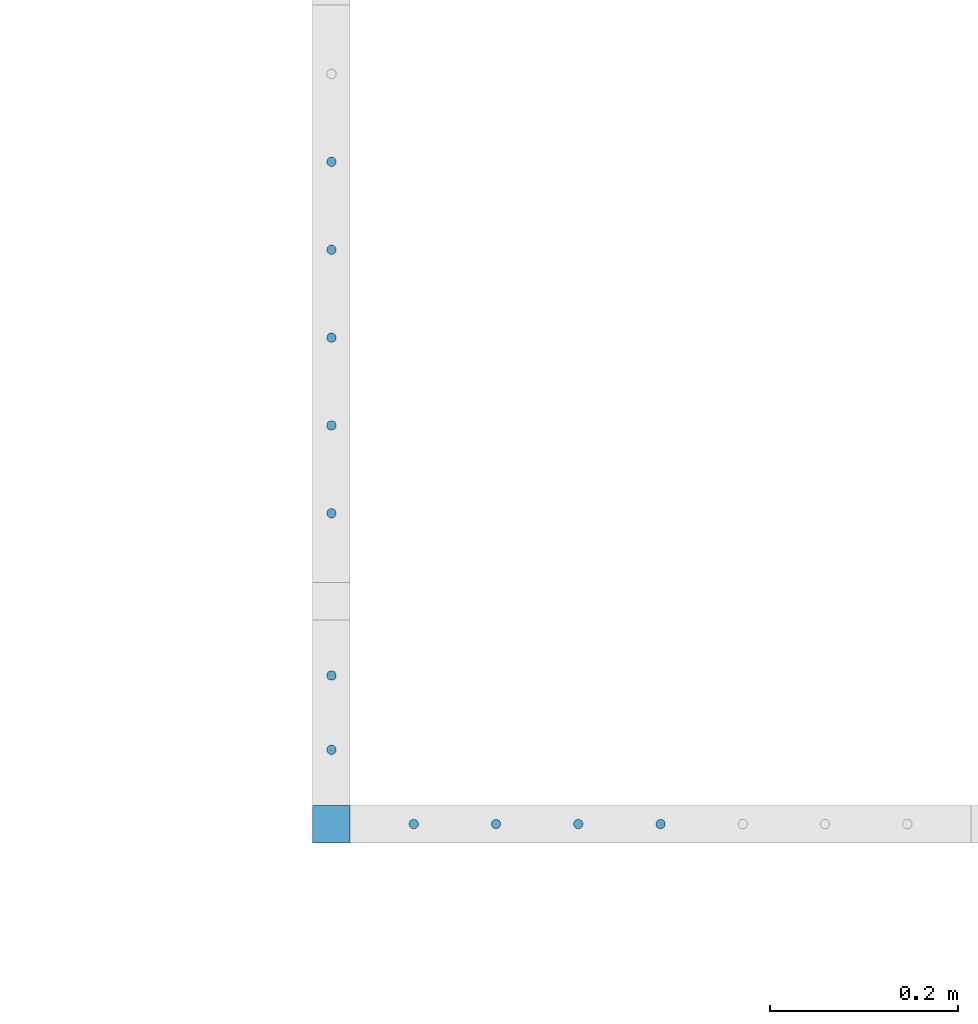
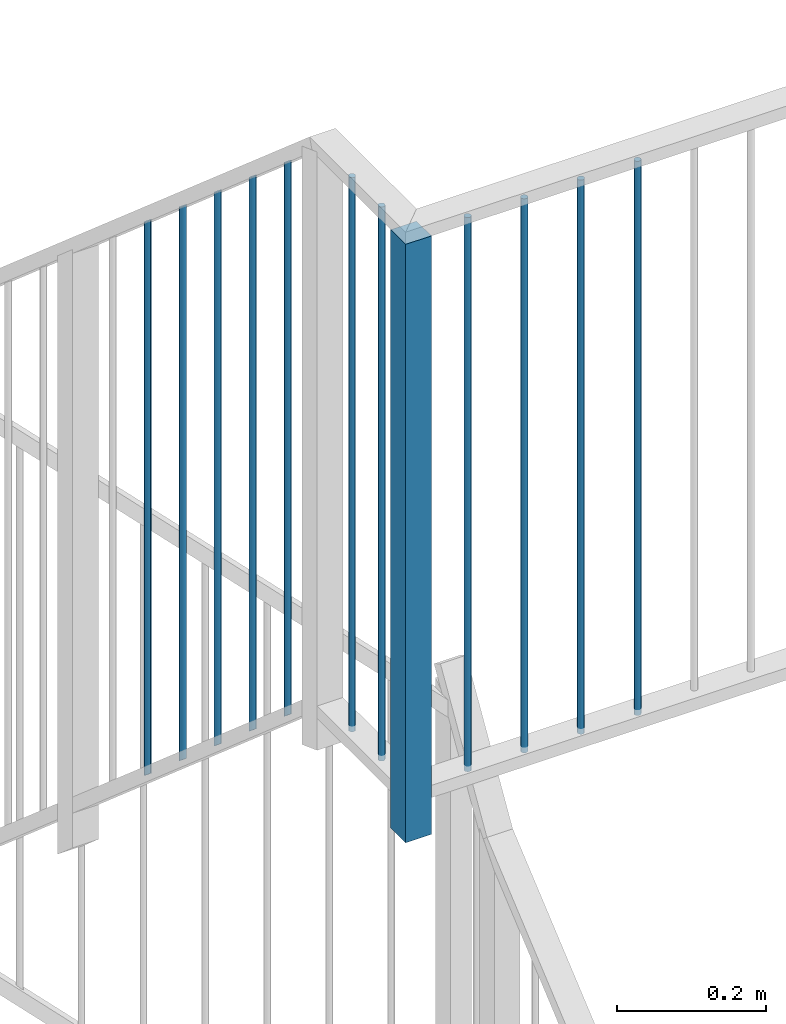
# One storey, part 6 of 135: 12 members, 1 element without a shape of its own.
"""IFC2X3 building model written with IfcOpenShell, lengths in millimetres."""

from ifc_helpers import new_model, entity, si_unit, converted_unit, derived_unit, money_unit, direction, frame, origin_with_axes, place, context, subcontext, project, spatial, faceted_brep, source, transform, mapped, material, type_object, type_shapes, element, aggregate, save


model = new_model("IFC2X3")

# Units and contexts
model_context = context("Model", 3, precision=0.01, world=origin_with_axes(), true_north=direction((0.0, 1.0)))
body_context = subcontext(model_context, "Body", "Model", "MODEL_VIEW")
ifc_project = project(units=[si_unit("LENGTHUNIT", "METRE", prefix="MILLI"), si_unit("AREAUNIT", "SQUARE_METRE"), si_unit("VOLUMEUNIT", "CUBIC_METRE"), converted_unit("PLANEANGLEUNIT", "DEGREE", entity("IfcPlaneAngleMeasure", 0.0174532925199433), si_unit("PLANEANGLEUNIT", "RADIAN"), dimensions=[0, 0, 0, 0, 0, 0, 0]), money_unit("EUR"), converted_unit("TIMEUNIT", "Year", entity("IfcTimeMeasure", 31557600.0), si_unit("TIMEUNIT", "SECOND"), dimensions=[0, 0, 1, 0, 0, 0, 0]), si_unit("MASSUNIT", "GRAM", prefix="KILO"), si_unit("THERMODYNAMICTEMPERATUREUNIT", "DEGREE_CELSIUS"), si_unit("LUMINOUSINTENSITYUNIT", "LUMEN"), si_unit("ENERGYUNIT", "JOULE", prefix="MEGA"), derived_unit("THERMALCONDUCTANCEUNIT", [(si_unit("POWERUNIT", "WATT"), 1), (si_unit("LENGTHUNIT", "METRE"), -1), (si_unit("THERMODYNAMICTEMPERATUREUNIT", "KELVIN"), -1)]), derived_unit("SPECIFICHEATCAPACITYUNIT", [(si_unit("ENERGYUNIT", "JOULE"), 1), (si_unit("MASSUNIT", "GRAM", prefix="KILO"), -1), (si_unit("THERMODYNAMICTEMPERATUREUNIT", "KELVIN"), -1)]), derived_unit("MASSDENSITYUNIT", [(si_unit("MASSUNIT", "GRAM", prefix="KILO"), 1), (si_unit("VOLUMEUNIT", "CUBIC_METRE"), -1)])], contexts=[model_context])

# Site, building, storey
site_placement = place(None, origin_with_axes())
site = spatial("IfcSite", under=ifc_project, at=site_placement, Name="Site", CompositionType="ELEMENT")
building_placement = place(site_placement, origin_with_axes())
building = spatial("IfcBuilding", under=site, at=building_placement, Name="Naam gebouw", CompositionType="ELEMENT")
storey_placement = place(building_placement, origin_with_axes())
storey = spatial("IfcBuildingStorey", under=building, at=storey_placement, Name="Begane grond N", CompositionType="ELEMENT", Elevation=0.0)

# Railing, members
railing_type = type_object("IfcRailingType", Name="Railing Type", PredefinedType="NOTDEFINED")
railing_placement = place(storey_placement, frame((799.9999999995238, 21575.82979156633, 4340.731848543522), z_axis=(0.0, 0.0, 1.0), x_axis=(1.0, 0.0, 0.0)))
railing = element("IfcRailing", 1, at=railing_placement, inside=storey, type_object=railing_type, Name="_Reling-x", PredefinedType="NOTDEFINED")
ifc_material = material(Name="Metaal - Staal C")
member_type_1 = type_object("IfcMemberType", Name="IfcMember", PredefinedType="MEMBER")
shared_shape_1 = source(origin_with_axes(), body_context, "Body", "Brep", [
    faceted_brep([(0.0, -5.0, 0.0), (0.8682408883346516, -4.92403876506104, 0.0), (0.868240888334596, -4.92403876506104, 907.5000000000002), (0.0, -5.0, 907.5000000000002), (-0.868240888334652, -4.92403876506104, 0.0), (-1.710100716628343, -4.698463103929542, 0.0), (-2.500000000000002, -4.330127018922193, 0.0), (-3.213938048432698, -3.830222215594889, 0.0), (-3.830222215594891, -3.213938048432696, 0.0), (-4.330127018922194, -2.5, 0.0), (-4.698463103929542, -1.710100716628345, 0.0), (-4.924038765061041, -0.86824088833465, 0.0), (-5.0, 0.0, 0.0), (-4.92403876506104, 0.8682408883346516, 0.0), (-4.698463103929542, 1.710100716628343, 0.0), (-4.330127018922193, 2.500000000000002, 0.0), (-3.83022221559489, 3.213938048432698, 0.0), (-3.213938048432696, 3.83022221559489, 0.0), (-2.5, 4.330127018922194, 0.0), (-1.710100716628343, 4.698463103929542, 0.0), (-0.8682408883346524, 4.92403876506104, 0.0), (0.0, 5.0, 0.0), (0.8682408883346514, 4.92403876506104, 0.0), (1.710100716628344, 4.698463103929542, 0.0), (2.5, 4.330127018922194, 0.0), (3.213938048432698, 3.83022221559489, 0.0), (3.83022221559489, 3.213938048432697, 0.0), (4.330127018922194, 2.499999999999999, 0.0), (4.698463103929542, 1.710100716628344, 0.0), (4.92403876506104, 0.8682408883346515, 0.0), (5.0, 0.0, 0.0), (4.92403876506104, -0.8682408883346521, 0.0), (4.698463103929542, -1.710100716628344, 0.0), (4.330127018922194, -2.5, 0.0), (3.83022221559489, -3.213938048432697, 0.0), (3.213938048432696, -3.83022221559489, 0.0), (2.5, -4.330127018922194, 0.0), (1.710100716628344, -4.698463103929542, 0.0), (1.710100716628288, -4.698463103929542, 907.5000000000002), (2.499999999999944, -4.330127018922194, 907.5000000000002), (3.213938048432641, -3.83022221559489, 907.5000000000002), (3.830222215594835, -3.213938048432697, 907.5000000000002), (4.330127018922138, -2.5, 907.5000000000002), (4.698463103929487, -1.710100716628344, 907.5000000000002), (4.924038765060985, -0.8682408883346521, 907.5000000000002), (4.999999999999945, 0.0, 907.5000000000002), (4.924038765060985, 0.8682408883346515, 907.5000000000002), (4.698463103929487, 1.710100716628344, 907.5000000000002), (4.330127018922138, 2.499999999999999, 907.5000000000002), (3.830222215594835, 3.213938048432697, 907.5000000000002), (3.213938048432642, 3.83022221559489, 907.5000000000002), (2.499999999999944, 4.330127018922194, 907.5000000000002), (1.710100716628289, 4.698463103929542, 907.5000000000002), (0.8682408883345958, 4.92403876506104, 907.5000000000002), (0.0, 5.0, 907.5000000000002), (-0.868240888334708, 4.92403876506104, 907.5000000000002), (-1.710100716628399, 4.698463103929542, 907.5000000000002), (-2.500000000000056, 4.330127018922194, 907.5000000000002), (-3.213938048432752, 3.83022221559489, 907.5000000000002), (-3.830222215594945, 3.213938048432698, 907.5000000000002), (-4.330127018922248, 2.500000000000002, 907.5000000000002), (-4.698463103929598, 1.710100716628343, 907.5000000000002), (-4.924038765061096, 0.8682408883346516, 907.5000000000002), (-5.000000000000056, 0.0, 907.5000000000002), (-4.924038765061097, -0.86824088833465, 907.5000000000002), (-4.698463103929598, -1.710100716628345, 907.5000000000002), (-4.330127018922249, -2.5, 907.5000000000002), (-3.830222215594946, -3.213938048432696, 907.5000000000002), (-3.213938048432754, -3.830222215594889, 907.5000000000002), (-2.500000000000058, -4.330127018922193, 907.5000000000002), (-1.710100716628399, -4.698463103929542, 907.5000000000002), (-0.8682408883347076, -4.92403876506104, 907.5000000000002)], [[[0, 1, 2, 3]], [[0, 4, 5, 6, 7, 8, 9, 10, 11, 12, 13, 14, 15, 16, 17, 18, 19, 20, 21, 22, 23, 24, 25, 26, 27, 28, 29, 30, 31, 32, 33, 34, 35, 36, 37, 1]], [[1, 37, 38, 2]], [[3, 2, 38, 39, 40, 41, 42, 43, 44, 45, 46, 47, 48, 49, 50, 51, 52, 53, 54, 55, 56, 57, 58, 59, 60, 61, 62, 63, 64, 65, 66, 67, 68, 69, 70, 71]], [[4, 0, 3, 71]], [[5, 4, 71, 70]], [[6, 5, 70, 69]], [[7, 6, 69, 68]], [[8, 7, 68, 67]], [[9, 8, 67, 66]], [[10, 9, 66, 65]], [[11, 10, 65, 64]], [[12, 11, 64, 63]], [[13, 12, 63, 62]], [[14, 13, 62, 61]], [[15, 14, 61, 60]], [[16, 15, 60, 59]], [[17, 16, 59, 58]], [[18, 17, 58, 57]], [[19, 18, 57, 56]], [[20, 19, 56, 55]], [[21, 20, 55, 54]], [[22, 21, 54, 53]], [[23, 22, 53, 52]], [[24, 23, 52, 51]], [[25, 24, 51, 50]], [[26, 25, 50, 49]], [[27, 26, 49, 48]], [[28, 27, 48, 47]], [[29, 28, 47, 46]], [[30, 29, 46, 45]], [[31, 30, 45, 44]], [[32, 31, 44, 43]], [[33, 32, 43, 42]], [[34, 33, 42, 41]], [[35, 34, 41, 40]], [[36, 35, 40, 39]], [[37, 36, 39, 38]]]),
])
member_1_placement = place(railing_placement, frame((-1084.999999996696, 58.41392893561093, 3391.96815145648), z_axis=(0.0, 0.0, 1.0), x_axis=(1.0, 0.0, 0.0)))
member_1 = element("IfcMember", 2, at=member_1_placement, type_object=member_type_1, material=ifc_material, Name="_Spijlen-x", ObjectType="MEMBER", context=body_context, shape_type="MappedRepresentation", body=[
    mapped(shared_shape_1, transform((0.0, 0.0, 0.0), x_axis=(-1.0, 0.0, 0.0), y_axis=(0.0, -1.0, 0.0), z_axis=(0.0, 0.0, 1.0))),
])
member_2_placement = place(railing_placement, frame((-1084.999999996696, -20.79303553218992, 3391.96815145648), z_axis=(0.0, 0.0, 1.0), x_axis=(1.0, 0.0, 0.0)))
member_2 = element("IfcMember", 3, at=member_2_placement, type_object=member_type_1, material=ifc_material, Name="_Spijlen-x", ObjectType="MEMBER", context=body_context, shape_type="MappedRepresentation", body=[
    mapped(shared_shape_1, transform((0.0, 0.0, 0.0), x_axis=(-1.0, 0.0, 0.0), y_axis=(0.0, -1.0, 0.0), z_axis=(0.0, 0.0, 1.0))),
])
member_3_placement = place(railing_placement, frame((-997.2916666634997, -99.99999999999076, 3391.96815145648), z_axis=(0.0, 0.0, 1.0), x_axis=(1.0, 0.0, 0.0)))
member_3 = element("IfcMember", 4, at=member_3_placement, type_object=member_type_1, material=ifc_material, Name="_Spijlen-x", ObjectType="MEMBER", context=body_context, shape_type="MappedRepresentation", body=[
    mapped(shared_shape_1, transform((0.0, 0.0, 0.0), x_axis=(0.0, -1.0, 0.0), y_axis=(1.0, 0.0, 0.0), z_axis=(0.0, 0.0, 1.0))),
])
member_4_placement = place(railing_placement, frame((-821.8749999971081, -99.99999999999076, 3391.96815145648), z_axis=(0.0, 0.0, 1.0), x_axis=(1.0, 0.0, 0.0)))
member_4 = element("IfcMember", 5, at=member_4_placement, type_object=member_type_1, material=ifc_material, Name="_Spijlen-x", ObjectType="MEMBER", context=body_context, shape_type="MappedRepresentation", body=[
    mapped(shared_shape_1, transform((0.0, 0.0, 0.0), x_axis=(0.0, -1.0, 0.0), y_axis=(1.0, 0.0, 0.0), z_axis=(0.0, 0.0, 1.0))),
])
member_5_placement = place(railing_placement, frame((-734.1666666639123, -99.99999999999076, 3391.96815145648), z_axis=(0.0, 0.0, 1.0), x_axis=(1.0, 0.0, 0.0)))
member_5 = element("IfcMember", 6, at=member_5_placement, type_object=member_type_1, material=ifc_material, Name="_Spijlen-x", ObjectType="MEMBER", context=body_context, shape_type="MappedRepresentation", body=[
    mapped(shared_shape_1, transform((0.0, 0.0, 0.0), x_axis=(0.0, -1.0, 0.0), y_axis=(1.0, 0.0, 0.0), z_axis=(0.0, 0.0, 1.0))),
])
member_6_placement = place(railing_placement, frame((-909.583333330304, -99.99999999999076, 3391.96815145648), z_axis=(0.0, 0.0, 1.0), x_axis=(1.0, 0.0, 0.0)))
member_6 = element("IfcMember", 7, at=member_6_placement, type_object=member_type_1, material=ifc_material, Name="_Spijlen-x", ObjectType="MEMBER", context=body_context, shape_type="MappedRepresentation", body=[
    mapped(shared_shape_1, transform((0.0, 0.0, 0.0), x_axis=(0.0, -1.0, 0.0), y_axis=(1.0, 0.0, 0.0), z_axis=(0.0, 0.0, 1.0))),
])
member_type_2 = type_object("IfcMemberType", Name="IfcMember", PredefinedType="POST")
shared_shape_2 = source(origin_with_axes(), body_context, "Body", "Brep", [
    faceted_brep([(20.0, 20.0, 0.0), (-20.0, 20.0, 0.0), (-20.00000000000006, 20.0, 980.0000000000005), (19.99999999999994, 20.0, 980.0000000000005), (20.0, -20.0, 0.0), (-20.0, -20.0, 0.0), (-20.00000000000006, -20.0, 980.0000000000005), (19.99999999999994, -20.0, 980.0000000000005)], [[[0, 1, 2, 3]], [[0, 4, 5, 1]], [[1, 5, 6, 2]], [[3, 2, 6, 7]], [[4, 0, 3, 7]], [[5, 4, 7, 6]]]),
])
type_shapes(member_type_2, [shared_shape_2])
member_7_placement = place(railing_placement, frame((-1084.999999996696, -99.99999999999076, 3321.96815145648), z_axis=(0.0, 0.0, 1.0), x_axis=(1.0, 0.0, 0.0)))
member_7 = element("IfcMember", 8, at=member_7_placement, type_object=member_type_2, material=ifc_material, Name="_Hoofdbaluster-x", ObjectType="POST", context=body_context, shape_type="MappedRepresentation", body=[
    mapped(shared_shape_2, transform((0.0, 0.0, 0.0), x_axis=(-1.0, 0.0, 0.0), y_axis=(0.0, -1.0, 0.0), z_axis=(0.0, 0.0, 1.0))),
])
shared_shape_3 = source(origin_with_axes(), body_context, "Body", "Brep", [
    faceted_brep([(0.0, -5.0, -4.324987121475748), (0.8682408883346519, -4.92403876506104, -4.259280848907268), (0.8682408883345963, -4.92403876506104, 903.2407191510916), (0.0, -5.0, 903.175012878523), (-0.8682408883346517, -4.92403876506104, -4.259280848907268), (-1.710100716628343, -4.698463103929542, -4.064158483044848), (-2.500000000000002, -4.330127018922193, -3.74554871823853), (-3.213938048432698, -3.830222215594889, -3.31313235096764), (-3.830222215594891, -3.213938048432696, -2.780048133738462), (-4.330127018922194, -2.5, -2.162493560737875), (-4.698463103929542, -1.710100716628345, -1.479232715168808), (-4.924038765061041, -0.8682408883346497, -0.7510261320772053), (-5.0, 0.0, 0.0), (-4.92403876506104, 0.8682408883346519, 0.7510261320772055), (-4.698463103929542, 1.710100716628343, 1.479232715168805), (-4.330127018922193, 2.500000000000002, 2.162493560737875), (-3.83022221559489, 3.213938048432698, 2.780048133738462), (-3.213938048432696, 3.83022221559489, 3.313132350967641), (-2.500000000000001, 4.330127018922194, 3.745548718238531), (-1.710100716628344, 4.698463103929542, 4.064158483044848), (-0.8682408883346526, 4.92403876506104, 4.259280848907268), (0.0, 5.0, 4.324987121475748), (0.8682408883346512, 4.92403876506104, 4.259280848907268), (1.710100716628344, 4.698463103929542, 4.064158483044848), (2.499999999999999, 4.330127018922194, 3.745548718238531), (3.213938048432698, 3.83022221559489, 3.31313235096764), (3.83022221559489, 3.213938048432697, 2.780048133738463), (4.330127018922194, 2.499999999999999, 2.162493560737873), (4.698463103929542, 1.710100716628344, 1.479232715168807), (4.92403876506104, 0.8682408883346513, 0.7510261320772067), (5.0, 0.0, 0.0), (4.92403876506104, -0.8682408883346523, -0.7510261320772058), (4.698463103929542, -1.710100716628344, -1.479232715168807), (4.330127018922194, -2.5, -2.162493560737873), (3.83022221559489, -3.213938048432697, -2.780048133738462), (3.213938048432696, -3.83022221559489, -3.313132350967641), (2.5, -4.330127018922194, -3.745548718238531), (1.710100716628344, -4.698463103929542, -4.064158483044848), (1.710100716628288, -4.698463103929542, 903.435841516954), (2.499999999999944, -4.330127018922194, 903.7544512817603), (3.213938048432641, -3.830222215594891, 904.1868676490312), (3.830222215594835, -3.213938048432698, 904.7199518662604), (4.330127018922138, -2.500000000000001, 905.337506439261), (4.698463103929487, -1.710100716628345, 906.0207672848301), (4.924038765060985, -0.8682408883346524, 906.7489738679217), (4.999999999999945, 0.0, 907.4999999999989), (4.924038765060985, 0.8682408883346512, 908.251026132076), (4.698463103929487, 1.710100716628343, 908.9792327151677), (4.330127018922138, 2.499999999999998, 909.6624935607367), (3.830222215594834, 3.213938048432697, 910.2800481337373), (3.213938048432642, 3.830222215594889, 910.8131323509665), (2.499999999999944, 4.330127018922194, 911.2455487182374), (1.710100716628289, 4.698463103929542, 911.5641584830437), (0.8682408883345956, 4.92403876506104, 911.7592808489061), (0.0, 5.0, 911.8249871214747), (-0.8682408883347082, 4.92403876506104, 911.7592808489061), (-1.710100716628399, 4.698463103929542, 911.5641584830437), (-2.500000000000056, 4.330127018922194, 911.2455487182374), (-3.213938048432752, 3.830222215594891, 910.8131323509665), (-3.830222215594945, 3.213938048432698, 910.2800481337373), (-4.330127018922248, 2.500000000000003, 909.6624935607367), (-4.698463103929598, 1.710100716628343, 908.9792327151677), (-4.924038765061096, 0.868240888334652, 908.251026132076), (-5.000000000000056, 0.0, 907.4999999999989), (-4.924038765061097, -0.8682408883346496, 906.7489738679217), (-4.698463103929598, -1.710100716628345, 906.0207672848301), (-4.330127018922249, -2.5, 905.337506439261), (-3.830222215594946, -3.213938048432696, 904.7199518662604), (-3.213938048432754, -3.830222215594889, 904.1868676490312), (-2.500000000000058, -4.330127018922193, 903.7544512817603), (-1.710100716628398, -4.698463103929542, 903.435841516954), (-0.8682408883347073, -4.92403876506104, 903.2407191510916)], [[[0, 1, 2, 3]], [[0, 4, 5, 6, 7, 8, 9, 10, 11, 12, 13, 14, 15, 16, 17, 18, 19, 20, 21, 22, 23, 24, 25, 26, 27, 28, 29, 30, 31, 32, 33, 34, 35, 36, 37, 1]], [[1, 37, 38, 2]], [[3, 2, 38, 39, 40, 41, 42, 43, 44, 45, 46, 47, 48, 49, 50, 51, 52, 53, 54, 55, 56, 57, 58, 59, 60, 61, 62, 63, 64, 65, 66, 67, 68, 69, 70, 71]], [[4, 0, 3, 71]], [[5, 4, 71, 70]], [[6, 5, 70, 69]], [[7, 6, 69, 68]], [[8, 7, 68, 67]], [[9, 8, 67, 66]], [[10, 9, 66, 65]], [[11, 10, 65, 64]], [[12, 11, 64, 63]], [[13, 12, 63, 62]], [[14, 13, 62, 61]], [[15, 14, 61, 60]], [[16, 15, 60, 59]], [[17, 16, 59, 58]], [[18, 17, 58, 57]], [[19, 18, 57, 56]], [[20, 19, 56, 55]], [[21, 20, 55, 54]], [[22, 21, 54, 53]], [[23, 22, 53, 52]], [[24, 23, 52, 51]], [[25, 24, 51, 50]], [[26, 25, 50, 49]], [[27, 26, 49, 48]], [[28, 27, 48, 47]], [[29, 28, 47, 46]], [[30, 29, 46, 45]], [[31, 30, 45, 44]], [[32, 31, 44, 43]], [[33, 32, 43, 42]], [[34, 33, 42, 41]], [[35, 34, 41, 40]], [[36, 35, 40, 39]], [[37, 36, 39, 38]]]),
])
type_shapes(member_type_1, [shared_shape_1, shared_shape_3])
member_8_placement = place(railing_placement, frame((-1084.999999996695, 512.3827338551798, 3067.80012474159), z_axis=(0.0, 0.0, 1.0), x_axis=(1.0, 0.0, 0.0)))
member_8 = element("IfcMember", 9, at=member_8_placement, type_object=member_type_1, material=ifc_material, Name="_Spijlen-x", ObjectType="MEMBER", context=body_context, shape_type="MappedRepresentation", body=[
    mapped(shared_shape_3, transform((0.0, 0.0, 0.0), x_axis=(-1.0, 0.0, 0.0), y_axis=(0.0, -1.0, 0.0), z_axis=(0.0, 0.0, 1.0))),
])
member_9_placement = place(railing_placement, frame((-1084.999999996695, 606.0731939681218, 2986.758118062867), z_axis=(0.0, 0.0, 1.0), x_axis=(1.0, 0.0, 0.0)))
member_9 = element("IfcMember", 10, at=member_9_placement, type_object=member_type_1, material=ifc_material, Name="_Spijlen-x", ObjectType="MEMBER", context=body_context, shape_type="MappedRepresentation", body=[
    mapped(shared_shape_3, transform((0.0, 0.0, 0.0), x_axis=(-1.0, 0.0, 0.0), y_axis=(0.0, -1.0, 0.0), z_axis=(0.0, 0.0, 1.0))),
])
member_10_placement = place(railing_placement, frame((-1084.999999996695, 418.6922737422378, 3148.842131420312), z_axis=(0.0, 0.0, 1.0), x_axis=(1.0, 0.0, 0.0)))
member_10 = element("IfcMember", 11, at=member_10_placement, type_object=member_type_1, material=ifc_material, Name="_Spijlen-x", ObjectType="MEMBER", context=body_context, shape_type="MappedRepresentation", body=[
    mapped(shared_shape_3, transform((0.0, 0.0, 0.0), x_axis=(-1.0, 0.0, 0.0), y_axis=(0.0, -1.0, 0.0), z_axis=(0.0, 0.0, 1.0))),
])
member_11_placement = place(railing_placement, frame((-1084.999999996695, 325.0018136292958, 3229.884138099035), z_axis=(0.0, 0.0, 1.0), x_axis=(1.0, 0.0, 0.0)))
member_11 = element("IfcMember", 12, at=member_11_placement, type_object=member_type_1, material=ifc_material, Name="_Spijlen-x", ObjectType="MEMBER", context=body_context, shape_type="MappedRepresentation", body=[
    mapped(shared_shape_3, transform((0.0, 0.0, 0.0), x_axis=(-1.0, 0.0, 0.0), y_axis=(0.0, -1.0, 0.0), z_axis=(0.0, 0.0, 1.0))),
])
member_12_placement = place(railing_placement, frame((-1084.999999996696, 231.3113535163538, 3310.926144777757), z_axis=(0.0, 0.0, 1.0), x_axis=(1.0, 0.0, 0.0)))
member_12 = element("IfcMember", 13, at=member_12_placement, type_object=member_type_1, material=ifc_material, Name="_Spijlen-x", ObjectType="MEMBER", context=body_context, shape_type="MappedRepresentation", body=[
    mapped(shared_shape_3, transform((0.0, 0.0, 0.0), x_axis=(-1.0, 0.0, 0.0), y_axis=(0.0, -1.0, 0.0), z_axis=(0.0, 0.0, 1.0))),
])
aggregate(railing, [member_7, member_8, member_9, member_10, member_11, member_12, member_1, member_2, member_3, member_4, member_5, member_6])

save(model, "model.ifc")
